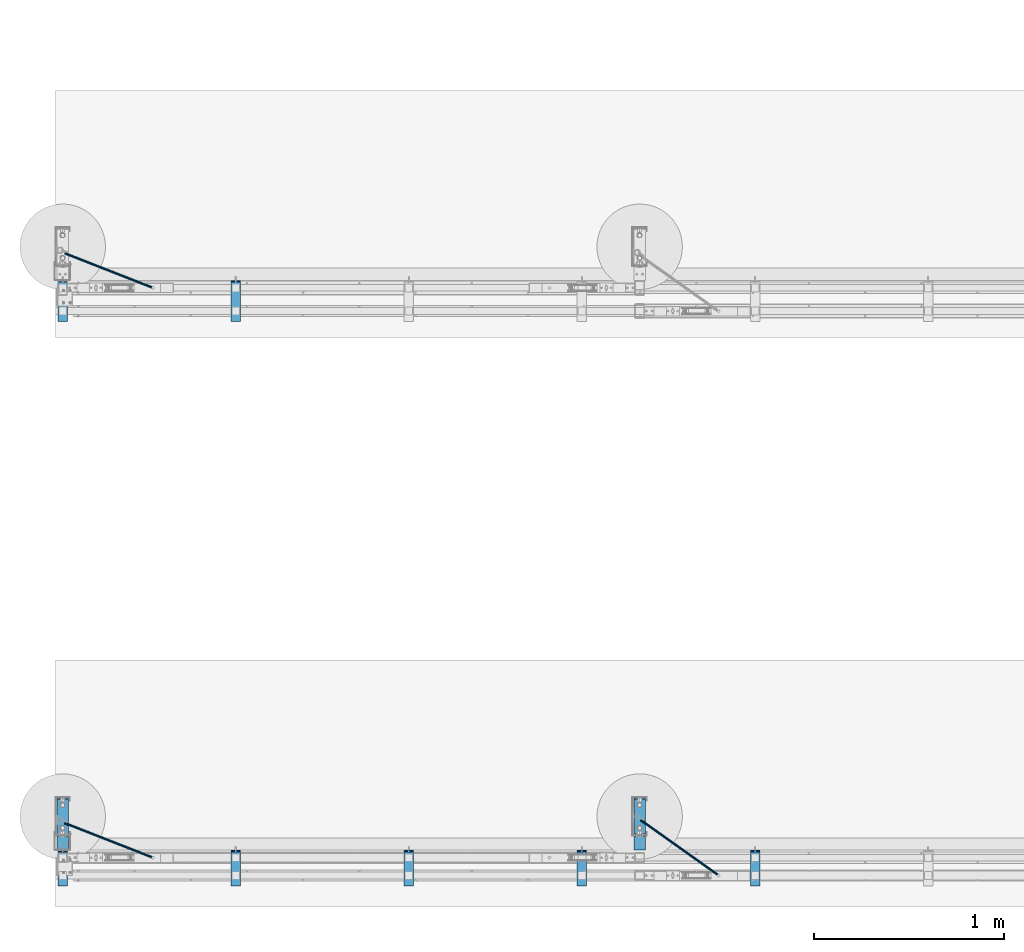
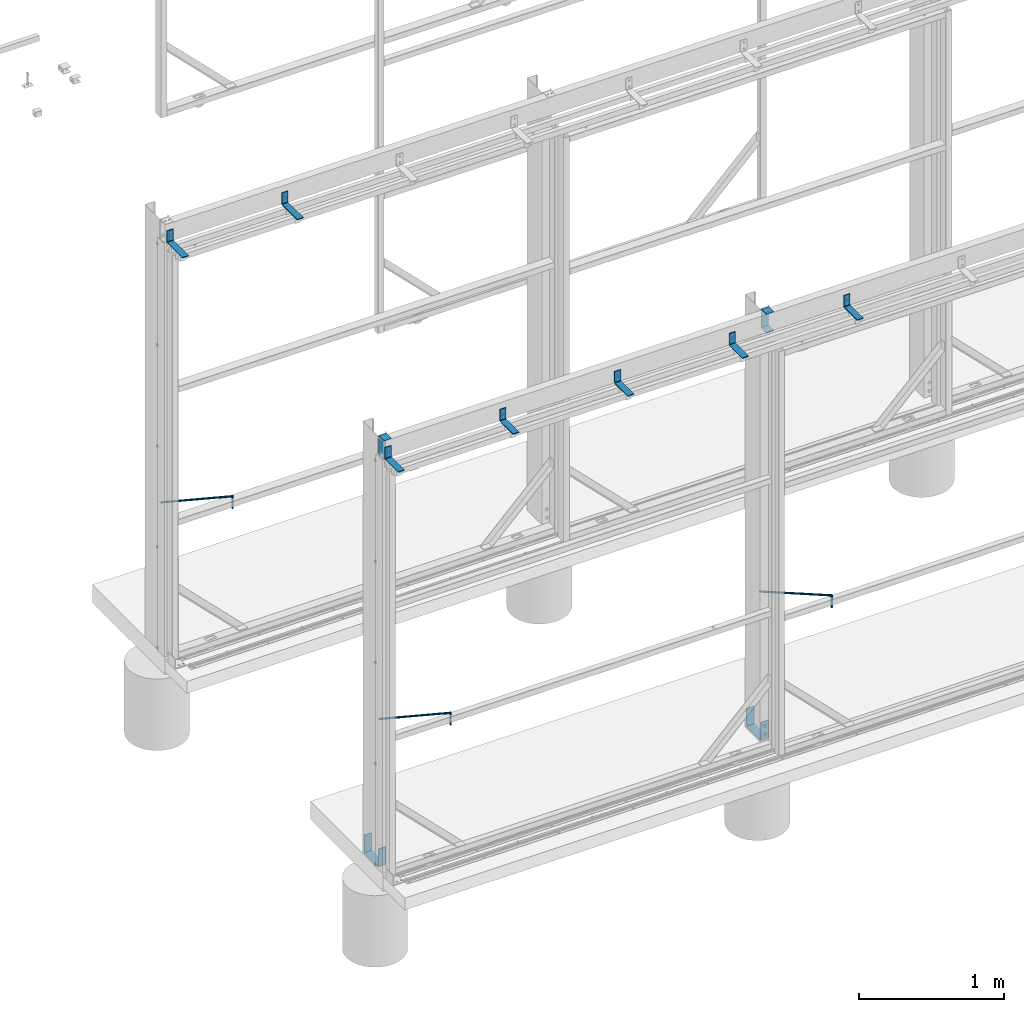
# One storey, part 80 of 91: 14 beams, 14 elements without a shape of their own.
"""IFC2X3 building model written with IfcOpenShell, lengths in millimetres."""

from ifc_helpers import new_model, si_unit, frame, origin_with_axes, place, context, subcontext, project, spatial, faceted_brep, material, type_object, element, aggregate, save


model = new_model("IFC2X3")

# Units and contexts
model_context = context("Model", 3, precision=1e-05, world=origin_with_axes())
body_context = subcontext(model_context, "Body", "Model", "MODEL_VIEW")
ifc_project = project(units=[si_unit("LENGTHUNIT", "METRE", prefix="MILLI"), si_unit("AREAUNIT", "SQUARE_METRE"), si_unit("VOLUMEUNIT", "CUBIC_METRE"), si_unit("MASSUNIT", "GRAM", prefix="KILO"), si_unit("TIMEUNIT", "SECOND"), si_unit("PLANEANGLEUNIT", "RADIAN"), si_unit("SOLIDANGLEUNIT", "STERADIAN"), si_unit("THERMODYNAMICTEMPERATUREUNIT", "DEGREE_CELSIUS"), si_unit("LUMINOUSINTENSITYUNIT", "LUMEN")], contexts=[model_context])

# Site, building, storey
site_placement = place(None, origin_with_axes())
site = spatial("IfcSite", under=ifc_project, at=site_placement, Name="Undefined", CompositionType="ELEMENT")
building_placement = place(site_placement, origin_with_axes())
building = spatial("IfcBuilding", under=site, at=building_placement, Name="Undefined", CompositionType="ELEMENT")
storey_placement = place(building_placement, origin_with_axes())
storey = spatial("IfcBuildingStorey", under=building, at=storey_placement, Name="Undefined", CompositionType="ELEMENT", Elevation=0.0)

# Assembly, beam
assembly_1_placement = place(storey_placement, origin_with_axes())
assembly_1 = element("IfcElementAssembly", 1, at=assembly_1_placement, inside=storey, Name="DOOR BRACKET", AssemblyPlace="NOTDEFINED", PredefinedType="RIGID_FRAME")
ifc_material_1 = material(Name="STEEL/250")
beam_type_1 = type_object("IfcBeamType", Name="FL6*50", PredefinedType="NOTDEFINED")
beam_1_placement = place(assembly_1_placement, frame((-115884.59, 87749.15, 3544.0), z_axis=(1.0, 0.0, 0.0), x_axis=(0.0, 0.0, -1.0)))
beam_1 = element("IfcBeam", 2, at=beam_1_placement, type_object=beam_type_1, material=ifc_material_1, Name="DOOR BRACKET", ObjectType="FL6*50", context=body_context, shape_type="Brep", body=[
    faceted_brep([(0.0, 3.0, -25.0), (0.0, 3.0, 25.0), (88.0, 3.0, 25.0), (88.0000000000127, 3.00000000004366, -25.0), (0.0, -3.0, 25.0), (0.0, -3.0, -25.0), (88.0, -3.0, -25.0), (88.0, -3.0, 25.0), (93.9999999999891, 1.39230484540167, 25.0), (93.9999999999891, 1.39230484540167, -25.0), (90.9999999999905, -3.8038475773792, -25.0), (90.9999999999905, -3.8038475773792, 25.0), (93.1961524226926, -6.00000000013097, -25.0), (93.1961524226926, -6.00000000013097, 25.0), (98.3923048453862, -3.00000000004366, 25.0), (98.3923048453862, -3.00000000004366, -25.0), (93.9999999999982, -9.00000000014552, -25.0), (93.9999999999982, -9.00000000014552, 25.0), (100.000000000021, -9.00000000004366, 25.0), (100.0, -9.0, -25.0), (100.0, -215.0, 25.0), (100.0, -215.0, -25.0), (94.0, -215.0, 25.0), (94.0, -215.0, -25.0)], [[[0, 1, 2, 3]], [[4, 5, 6, 7]], [[5, 4, 1, 0]], [[3, 2, 8, 9]], [[7, 6, 10, 11]], [[10, 12, 13, 11]], [[8, 14, 15, 9]], [[12, 16, 17, 13]], [[14, 18, 19, 15]], [[19, 18, 20, 21]], [[18, 14, 8, 2, 1, 4, 7, 11, 13, 17, 22, 20]], [[17, 16, 23, 22]], [[16, 12, 10, 6, 5, 0, 3, 9, 15, 19, 21, 23]], [[22, 23, 21, 20]]]),
])
aggregate(assembly_1, [beam_1])

assembly_2_placement = place(storey_placement, origin_with_axes())
assembly_2 = element("IfcElementAssembly", 3, at=assembly_2_placement, inside=storey, Name="DOOR BRACKET", AssemblyPlace="NOTDEFINED", PredefinedType="RIGID_FRAME")
beam_2_placement = place(assembly_2_placement, frame((-116795.84, 87749.15, 3544.0), z_axis=(1.0, 0.0, 0.0), x_axis=(0.0, 0.0, -1.0)))
beam_2 = element("IfcBeam", 4, at=beam_2_placement, type_object=beam_type_1, material=ifc_material_1, Name="DOOR BRACKET", ObjectType="FL6*50", context=body_context, shape_type="Brep", body=[
    faceted_brep([(0.0, 3.0, -25.0), (0.0, 3.0, 25.0), (88.0, 3.0, 25.0), (88.0000000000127, 3.00000000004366, -25.0), (0.0, -3.0, 25.0), (0.0, -3.0, -25.0), (88.0, -3.0, -25.0), (88.0, -3.0, 25.0), (93.9999999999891, 1.39230484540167, 25.0), (93.9999999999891, 1.39230484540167, -25.0), (90.9999999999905, -3.8038475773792, -25.0), (90.9999999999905, -3.8038475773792, 25.0), (93.1961524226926, -6.00000000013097, -25.0), (93.1961524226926, -6.00000000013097, 25.0), (98.3923048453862, -3.00000000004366, 25.0), (98.3923048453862, -3.00000000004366, -25.0), (93.9999999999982, -9.00000000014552, -25.0), (93.9999999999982, -9.00000000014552, 25.0), (100.000000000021, -9.00000000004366, 25.0), (100.0, -9.0, -25.0), (100.0, -215.0, 25.0), (100.0, -215.0, -25.0), (94.0, -215.0, 25.0), (94.0, -215.0, -25.0)], [[[0, 1, 2, 3]], [[4, 5, 6, 7]], [[5, 4, 1, 0]], [[3, 2, 8, 9]], [[7, 6, 10, 11]], [[10, 12, 13, 11]], [[8, 14, 15, 9]], [[12, 16, 17, 13]], [[14, 18, 19, 15]], [[19, 18, 20, 21]], [[18, 14, 8, 2, 1, 4, 7, 11, 13, 17, 22, 20]], [[17, 16, 23, 22]], [[16, 12, 10, 6, 5, 0, 3, 9, 15, 19, 21, 23]], [[22, 23, 21, 20]]]),
])
aggregate(assembly_2, [beam_2])

assembly_3_placement = place(storey_placement, origin_with_axes())
assembly_3 = element("IfcElementAssembly", 5, at=assembly_3_placement, inside=storey, Name="DOOR BRACKET", AssemblyPlace="NOTDEFINED", PredefinedType="RIGID_FRAME")
beam_3_placement = place(assembly_3_placement, frame((-113150.84, 84749.15, 3544.0), z_axis=(1.0, 0.0, 0.0), x_axis=(0.0, 0.0, -1.0)))
beam_3 = element("IfcBeam", 6, at=beam_3_placement, type_object=beam_type_1, material=ifc_material_1, Name="DOOR BRACKET", ObjectType="FL6*50", context=body_context, shape_type="Brep", body=[
    faceted_brep([(0.0, 3.0, -25.0), (0.0, 3.0, 25.0), (88.0, 3.0, 25.0), (88.0000000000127, 3.00000000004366, -25.0), (0.0, -3.0, 25.0), (0.0, -3.0, -25.0), (88.0, -3.0, -25.0), (88.0, -3.0, 25.0), (93.9999999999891, 1.39230484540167, 25.0), (93.9999999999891, 1.39230484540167, -25.0), (90.9999999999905, -3.8038475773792, -25.0), (90.9999999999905, -3.8038475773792, 25.0), (93.1961524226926, -6.00000000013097, -25.0), (93.1961524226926, -6.00000000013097, 25.0), (98.3923048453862, -3.00000000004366, 25.0), (98.3923048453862, -3.00000000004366, -25.0), (93.9999999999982, -9.00000000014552, -25.0), (93.9999999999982, -9.00000000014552, 25.0), (100.000000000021, -9.00000000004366, 25.0), (100.0, -9.0, -25.0), (100.0, -185.0, 25.0), (100.0, -185.0, -25.0), (94.0, -185.0, 25.0), (94.0, -185.0, -25.0)], [[[0, 1, 2, 3]], [[4, 5, 6, 7]], [[5, 4, 1, 0]], [[3, 2, 8, 9]], [[7, 6, 10, 11]], [[10, 12, 13, 11]], [[8, 14, 15, 9]], [[12, 16, 17, 13]], [[14, 18, 19, 15]], [[19, 18, 20, 21]], [[18, 14, 8, 2, 1, 4, 7, 11, 13, 17, 22, 20]], [[17, 16, 23, 22]], [[16, 12, 10, 6, 5, 0, 3, 9, 15, 19, 21, 23]], [[22, 23, 21, 20]]]),
])
aggregate(assembly_3, [beam_3])

assembly_4_placement = place(storey_placement, origin_with_axes())
assembly_4 = element("IfcElementAssembly", 7, at=assembly_4_placement, inside=storey, Name="DOOR BRACKET", AssemblyPlace="NOTDEFINED", PredefinedType="RIGID_FRAME")
beam_4_placement = place(assembly_4_placement, frame((-114062.09, 84749.15, 3544.0), z_axis=(1.0, 0.0, 0.0), x_axis=(0.0, 0.0, -1.0)))
beam_4 = element("IfcBeam", 8, at=beam_4_placement, type_object=beam_type_1, material=ifc_material_1, Name="DOOR BRACKET", ObjectType="FL6*50", context=body_context, shape_type="Brep", body=[
    faceted_brep([(0.0, 3.0, -25.0), (0.0, 3.0, 25.0), (88.0, 3.0, 25.0), (88.0000000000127, 3.00000000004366, -25.0), (0.0, -3.0, 25.0), (0.0, -3.0, -25.0), (88.0, -3.0, -25.0), (88.0, -3.0, 25.0), (93.9999999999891, 1.39230484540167, 25.0), (93.9999999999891, 1.39230484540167, -25.0), (90.9999999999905, -3.8038475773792, -25.0), (90.9999999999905, -3.8038475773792, 25.0), (93.1961524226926, -6.00000000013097, -25.0), (93.1961524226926, -6.00000000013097, 25.0), (98.3923048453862, -3.00000000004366, 25.0), (98.3923048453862, -3.00000000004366, -25.0), (93.9999999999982, -9.00000000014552, -25.0), (93.9999999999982, -9.00000000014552, 25.0), (100.000000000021, -9.00000000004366, 25.0), (100.0, -9.0, -25.0), (100.0, -185.0, 25.0), (100.0, -185.0, -25.0), (94.0, -185.0, 25.0), (94.0, -185.0, -25.0)], [[[0, 1, 2, 3]], [[4, 5, 6, 7]], [[5, 4, 1, 0]], [[3, 2, 8, 9]], [[7, 6, 10, 11]], [[10, 12, 13, 11]], [[8, 14, 15, 9]], [[12, 16, 17, 13]], [[14, 18, 19, 15]], [[19, 18, 20, 21]], [[18, 14, 8, 2, 1, 4, 7, 11, 13, 17, 22, 20]], [[17, 16, 23, 22]], [[16, 12, 10, 6, 5, 0, 3, 9, 15, 19, 21, 23]], [[22, 23, 21, 20]]]),
])
aggregate(assembly_4, [beam_4])

assembly_5_placement = place(storey_placement, origin_with_axes())
assembly_5 = element("IfcElementAssembly", 9, at=assembly_5_placement, inside=storey, Name="DOOR BRACKET", AssemblyPlace="NOTDEFINED", PredefinedType="RIGID_FRAME")
beam_5_placement = place(assembly_5_placement, frame((-114973.34, 84749.15, 3544.0), z_axis=(1.0, 0.0, 0.0), x_axis=(0.0, 0.0, -1.0)))
beam_5 = element("IfcBeam", 10, at=beam_5_placement, type_object=beam_type_1, material=ifc_material_1, Name="DOOR BRACKET", ObjectType="FL6*50", context=body_context, shape_type="Brep", body=[
    faceted_brep([(0.0, 3.0, -25.0), (0.0, 3.0, 25.0), (88.0, 3.0, 25.0), (88.0000000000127, 3.00000000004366, -25.0), (0.0, -3.0, 25.0), (0.0, -3.0, -25.0), (88.0, -3.0, -25.0), (88.0, -3.0, 25.0), (93.9999999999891, 1.39230484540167, 25.0), (93.9999999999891, 1.39230484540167, -25.0), (90.9999999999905, -3.8038475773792, -25.0), (90.9999999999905, -3.8038475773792, 25.0), (93.1961524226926, -6.00000000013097, -25.0), (93.1961524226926, -6.00000000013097, 25.0), (98.3923048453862, -3.00000000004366, 25.0), (98.3923048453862, -3.00000000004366, -25.0), (93.9999999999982, -9.00000000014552, -25.0), (93.9999999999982, -9.00000000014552, 25.0), (100.000000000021, -9.00000000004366, 25.0), (100.0, -9.0, -25.0), (100.0, -185.0, 25.0), (100.0, -185.0, -25.0), (94.0, -185.0, 25.0), (94.0, -185.0, -25.0)], [[[0, 1, 2, 3]], [[4, 5, 6, 7]], [[5, 4, 1, 0]], [[3, 2, 8, 9]], [[7, 6, 10, 11]], [[10, 12, 13, 11]], [[8, 14, 15, 9]], [[12, 16, 17, 13]], [[14, 18, 19, 15]], [[19, 18, 20, 21]], [[18, 14, 8, 2, 1, 4, 7, 11, 13, 17, 22, 20]], [[17, 16, 23, 22]], [[16, 12, 10, 6, 5, 0, 3, 9, 15, 19, 21, 23]], [[22, 23, 21, 20]]]),
])
aggregate(assembly_5, [beam_5])

assembly_6_placement = place(storey_placement, origin_with_axes())
assembly_6 = element("IfcElementAssembly", 11, at=assembly_6_placement, inside=storey, Name="DOOR BRACKET", AssemblyPlace="NOTDEFINED", PredefinedType="RIGID_FRAME")
beam_6_placement = place(assembly_6_placement, frame((-115884.59, 84749.15, 3544.0), z_axis=(1.0, 0.0, 0.0), x_axis=(0.0, 0.0, -1.0)))
beam_6 = element("IfcBeam", 12, at=beam_6_placement, type_object=beam_type_1, material=ifc_material_1, Name="DOOR BRACKET", ObjectType="FL6*50", context=body_context, shape_type="Brep", body=[
    faceted_brep([(0.0, 3.0, -25.0), (0.0, 3.0, 25.0), (88.0, 3.0, 25.0), (88.0000000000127, 3.00000000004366, -25.0), (0.0, -3.0, 25.0), (0.0, -3.0, -25.0), (88.0, -3.0, -25.0), (88.0, -3.0, 25.0), (93.9999999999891, 1.39230484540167, 25.0), (93.9999999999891, 1.39230484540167, -25.0), (90.9999999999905, -3.8038475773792, -25.0), (90.9999999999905, -3.8038475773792, 25.0), (93.1961524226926, -6.00000000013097, -25.0), (93.1961524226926, -6.00000000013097, 25.0), (98.3923048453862, -3.00000000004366, 25.0), (98.3923048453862, -3.00000000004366, -25.0), (93.9999999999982, -9.00000000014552, -25.0), (93.9999999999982, -9.00000000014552, 25.0), (100.000000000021, -9.00000000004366, 25.0), (100.0, -9.0, -25.0), (100.0, -185.0, 25.0), (100.0, -185.0, -25.0), (94.0, -185.0, 25.0), (94.0, -185.0, -25.0)], [[[0, 1, 2, 3]], [[4, 5, 6, 7]], [[5, 4, 1, 0]], [[3, 2, 8, 9]], [[7, 6, 10, 11]], [[10, 12, 13, 11]], [[8, 14, 15, 9]], [[12, 16, 17, 13]], [[14, 18, 19, 15]], [[19, 18, 20, 21]], [[18, 14, 8, 2, 1, 4, 7, 11, 13, 17, 22, 20]], [[17, 16, 23, 22]], [[16, 12, 10, 6, 5, 0, 3, 9, 15, 19, 21, 23]], [[22, 23, 21, 20]]]),
])
aggregate(assembly_6, [beam_6])

assembly_7_placement = place(storey_placement, origin_with_axes())
assembly_7 = element("IfcElementAssembly", 13, at=assembly_7_placement, inside=storey, Name="DOOR BRACKET", AssemblyPlace="NOTDEFINED", PredefinedType="RIGID_FRAME")
beam_7_placement = place(assembly_7_placement, frame((-116795.84, 84749.15, 3544.0), z_axis=(1.0, 0.0, 0.0), x_axis=(0.0, 0.0, -1.0)))
beam_7 = element("IfcBeam", 14, at=beam_7_placement, type_object=beam_type_1, material=ifc_material_1, Name="DOOR BRACKET", ObjectType="FL6*50", context=body_context, shape_type="Brep", body=[
    faceted_brep([(0.0, 3.0, -25.0), (0.0, 3.0, 25.0), (88.0, 3.0, 25.0), (88.0000000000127, 3.00000000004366, -25.0), (0.0, -3.0, 25.0), (0.0, -3.0, -25.0), (88.0, -3.0, -25.0), (88.0, -3.0, 25.0), (93.9999999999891, 1.39230484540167, 25.0), (93.9999999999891, 1.39230484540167, -25.0), (90.9999999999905, -3.8038475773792, -25.0), (90.9999999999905, -3.8038475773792, 25.0), (93.1961524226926, -6.00000000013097, -25.0), (93.1961524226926, -6.00000000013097, 25.0), (98.3923048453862, -3.00000000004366, 25.0), (98.3923048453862, -3.00000000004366, -25.0), (93.9999999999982, -9.00000000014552, -25.0), (93.9999999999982, -9.00000000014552, 25.0), (100.000000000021, -9.00000000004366, 25.0), (100.0, -9.0, -25.0), (100.0, -185.0, 25.0), (100.0, -185.0, -25.0), (94.0, -185.0, 25.0), (94.0, -185.0, -25.0)], [[[0, 1, 2, 3]], [[4, 5, 6, 7]], [[5, 4, 1, 0]], [[3, 2, 8, 9]], [[7, 6, 10, 11]], [[10, 12, 13, 11]], [[8, 14, 15, 9]], [[12, 16, 17, 13]], [[14, 18, 19, 15]], [[19, 18, 20, 21]], [[18, 14, 8, 2, 1, 4, 7, 11, 13, 17, 22, 20]], [[17, 16, 23, 22]], [[16, 12, 10, 6, 5, 0, 3, 9, 15, 19, 21, 23]], [[22, 23, 21, 20]]]),
])
aggregate(assembly_7, [beam_7])

assembly_8_placement = place(storey_placement, origin_with_axes())
assembly_8 = element("IfcElementAssembly", 15, at=assembly_8_placement, inside=storey, Name="ROD", AssemblyPlace="NOTDEFINED", PredefinedType="RIGID_FRAME")
beam_type_2 = type_object("IfcBeamType", Name="D12", PredefinedType="NOTDEFINED")
beam_8_placement = place(assembly_8_placement, frame((-116320.062628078, 87712.1870489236, 1062.33560984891), z_axis=(0.931124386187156, -0.364701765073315, 0.0), x_axis=(0.0, 0.0, 1.0)))
beam_8 = element("IfcBeam", 16, at=beam_8_placement, type_object=beam_type_2, material=ifc_material_1, Name="ROD", ObjectType="D12", context=body_context, shape_type="Brep", body=[
    faceted_brep([(0.0, -6.0, 0.0), (-1.13686837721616e-12, -4.24264068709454, -4.24264068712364), (93.5000000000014, -4.24264068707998, -4.2426406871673), (93.5000000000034, -5.99999999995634, -2.91038304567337e-11), (-2.72848410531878e-12, 1.45519152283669e-11, -5.99999999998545), (93.5, 2.91038304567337e-11, -6.00000000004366), (-2.50111042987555e-12, 4.24264068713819, -4.24264068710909), (93.5000000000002, 4.2426406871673, -4.24264068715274), (0.0, 6.00000000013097, 0.0), (93.5000000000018, 6.0000000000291, -4.36557456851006e-11), (1.13686837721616e-12, 4.24264068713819, 4.24264068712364), (93.5000000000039, 4.24264068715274, 4.24264068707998), (2.72848410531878e-12, 1.45519152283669e-11, 5.99999999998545), (93.5000000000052, 4.36557456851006e-11, 5.99999999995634), (2.50111042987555e-12, -4.24264068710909, 4.24264068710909), (93.500000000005, -4.24264068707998, 4.24264068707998), (95.7573593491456, -4.24264068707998, -4.2426406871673), (100.000000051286, -5.9999999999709, -4.36557456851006e-11), (94.0, 2.91038304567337e-11, -6.00000000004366), (95.7573592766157, 4.2426406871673, -4.24264068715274), (99.9999999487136, 6.0000000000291, -4.36557456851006e-11), (104.242640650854, 4.24264068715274, 4.24264068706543), (106.0, 4.36557456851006e-11, 5.99999999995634), (104.242640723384, -4.24264068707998, 4.24264068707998), (95.7573593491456, -4.24264066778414, -6.50000003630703), (100.000000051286, -5.99999994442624, -6.50000005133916), (94.0, 4.32191882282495e-09, -6.50000000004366), (95.7573592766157, 4.24264070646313, -6.49999996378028), (99.9999999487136, 6.00000005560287, -6.49999994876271), (104.242640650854, 4.24264077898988, -6.49999996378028), (106.0, 1.06883817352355e-07, -6.50000000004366), (104.242640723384, -4.2426405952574, -6.50000003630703), (95.7573593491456, -4.24263644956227, -499.999970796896), (100.000000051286, -5.99999572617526, -499.999970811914), (94.0, 4.22252924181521e-06, -499.999970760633), (95.7573592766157, 4.24264492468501, -499.99997072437), (99.9999999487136, 6.00000427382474, -499.999970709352), (104.242640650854, 4.24264499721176, -499.999970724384), (106.0, 4.32510569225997e-06, -499.999970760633), (104.242640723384, -4.24263637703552, -499.999970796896)], [[[0, 1, 2, 3]], [[1, 4, 5, 2]], [[4, 6, 7, 5]], [[6, 8, 9, 7]], [[8, 10, 11, 9]], [[10, 12, 13, 11]], [[12, 14, 15, 13]], [[14, 0, 3, 15]], [[14, 12, 10, 8, 6, 4, 1, 0]], [[3, 2, 16, 17]], [[2, 5, 18, 16]], [[5, 7, 19, 18]], [[7, 9, 20, 19]], [[9, 11, 21, 20]], [[11, 13, 22, 21]], [[13, 15, 23, 22]], [[15, 3, 17, 23]], [[17, 16, 24, 25]], [[16, 18, 26, 24]], [[18, 19, 27, 26]], [[19, 20, 28, 27]], [[20, 21, 29, 28]], [[21, 22, 30, 29]], [[22, 23, 31, 30]], [[23, 17, 25, 31]], [[25, 24, 32, 33]], [[24, 26, 34, 32]], [[26, 27, 35, 34]], [[27, 28, 36, 35]], [[28, 29, 37, 36]], [[29, 30, 38, 37]], [[30, 31, 39, 38]], [[31, 25, 33, 39]], [[34, 35, 36, 37, 38, 39, 33, 32]]]),
])
aggregate(assembly_8, [beam_8])

assembly_9_placement = place(storey_placement, origin_with_axes())
assembly_9 = element("IfcElementAssembly", 17, at=assembly_9_placement, inside=storey, Name="ROD", AssemblyPlace="NOTDEFINED", PredefinedType="RIGID_FRAME")
beam_9_placement = place(assembly_9_placement, frame((-113344.657713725, 84620.399062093, 1062.33560984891), z_axis=(0.815236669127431, -0.57912794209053, 0.0), x_axis=(0.0, 0.0, 1.0)))
beam_9 = element("IfcBeam", 18, at=beam_9_placement, type_object=beam_type_2, material=ifc_material_1, Name="ROD", ObjectType="D12", context=body_context, shape_type="Brep", body=[
    faceted_brep([(0.0, -6.0, 0.0), (-1.13686837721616e-12, -4.24264068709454, -4.24264068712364), (93.5000000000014, -4.24264068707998, -4.2426406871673), (93.5000000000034, -5.99999999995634, -2.91038304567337e-11), (-2.72848410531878e-12, 1.45519152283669e-11, -5.99999999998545), (93.5, 2.91038304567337e-11, -6.00000000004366), (-2.50111042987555e-12, 4.24264068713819, -4.24264068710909), (93.5000000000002, 4.2426406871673, -4.24264068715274), (0.0, 6.00000000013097, 0.0), (93.5000000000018, 6.0000000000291, -4.36557456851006e-11), (1.13686837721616e-12, 4.24264068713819, 4.24264068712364), (93.5000000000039, 4.24264068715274, 4.24264068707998), (2.72848410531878e-12, 1.45519152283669e-11, 5.99999999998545), (93.5000000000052, 4.36557456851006e-11, 5.99999999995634), (2.50111042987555e-12, -4.24264068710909, 4.24264068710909), (93.500000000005, -4.24264068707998, 4.24264068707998), (95.7573593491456, -4.24264068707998, -4.2426406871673), (100.000000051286, -5.9999999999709, -4.36557456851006e-11), (94.0, 2.91038304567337e-11, -6.00000000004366), (95.7573592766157, 4.2426406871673, -4.24264068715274), (99.9999999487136, 6.0000000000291, -4.36557456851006e-11), (104.242640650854, 4.24264068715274, 4.24264068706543), (106.0, 4.36557456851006e-11, 5.99999999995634), (104.242640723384, -4.24264068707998, 4.24264068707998), (95.7573593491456, -4.24264066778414, -6.50000003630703), (100.000000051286, -5.99999994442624, -6.50000005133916), (94.0, 4.32191882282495e-09, -6.50000000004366), (95.7573592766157, 4.24264070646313, -6.49999996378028), (99.9999999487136, 6.00000005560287, -6.49999994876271), (104.242640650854, 4.24264077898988, -6.49999996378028), (106.0, 1.06883817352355e-07, -6.50000000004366), (104.242640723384, -4.2426405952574, -6.50000003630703), (95.757358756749, -4.24270567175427, -499.999949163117), (99.999999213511, -6.00006554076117, -499.999948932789), (94.0, -6.47542592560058e-05, -499.999949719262), (95.7573598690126, 4.24257570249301, -499.999950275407), (100.000000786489, 5.99993445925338, -499.999950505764), (104.242641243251, 4.24257459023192, -499.999950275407), (106.0, -6.63272485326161e-05, -499.999949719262), (104.242640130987, -4.24270678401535, -499.999949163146)], [[[0, 1, 2, 3]], [[1, 4, 5, 2]], [[4, 6, 7, 5]], [[6, 8, 9, 7]], [[8, 10, 11, 9]], [[10, 12, 13, 11]], [[12, 14, 15, 13]], [[14, 0, 3, 15]], [[14, 12, 10, 8, 6, 4, 1, 0]], [[3, 2, 16, 17]], [[2, 5, 18, 16]], [[5, 7, 19, 18]], [[7, 9, 20, 19]], [[9, 11, 21, 20]], [[11, 13, 22, 21]], [[13, 15, 23, 22]], [[15, 3, 17, 23]], [[17, 16, 24, 25]], [[16, 18, 26, 24]], [[18, 19, 27, 26]], [[19, 20, 28, 27]], [[20, 21, 29, 28]], [[21, 22, 30, 29]], [[22, 23, 31, 30]], [[23, 17, 25, 31]], [[25, 24, 32, 33]], [[24, 26, 34, 32]], [[26, 27, 35, 34]], [[27, 28, 36, 35]], [[28, 29, 37, 36]], [[29, 30, 38, 37]], [[30, 31, 39, 38]], [[31, 25, 33, 39]], [[34, 35, 36, 37, 38, 39, 33, 32]]]),
])
aggregate(assembly_9, [beam_9])

assembly_10_placement = place(storey_placement, origin_with_axes())
assembly_10 = element("IfcElementAssembly", 19, at=assembly_10_placement, inside=storey, Name="ROD", AssemblyPlace="NOTDEFINED", PredefinedType="RIGID_FRAME")
beam_10_placement = place(assembly_10_placement, frame((-116320.062628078, 84712.1870489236, 1062.33560984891), z_axis=(0.931124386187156, -0.364701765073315, 0.0), x_axis=(0.0, 0.0, 1.0)))
beam_10 = element("IfcBeam", 20, at=beam_10_placement, type_object=beam_type_2, material=ifc_material_1, Name="ROD", ObjectType="D12", context=body_context, shape_type="Brep", body=[
    faceted_brep([(0.0, -6.0, 0.0), (-1.13686837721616e-12, -4.24264068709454, -4.24264068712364), (93.5000000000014, -4.24264068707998, -4.2426406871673), (93.5000000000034, -5.99999999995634, -2.91038304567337e-11), (-2.72848410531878e-12, 1.45519152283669e-11, -5.99999999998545), (93.5, 2.91038304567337e-11, -6.00000000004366), (-2.50111042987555e-12, 4.24264068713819, -4.24264068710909), (93.5000000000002, 4.2426406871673, -4.24264068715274), (0.0, 6.00000000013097, 0.0), (93.5000000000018, 6.0000000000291, -4.36557456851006e-11), (1.13686837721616e-12, 4.24264068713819, 4.24264068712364), (93.5000000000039, 4.24264068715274, 4.24264068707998), (2.72848410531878e-12, 1.45519152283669e-11, 5.99999999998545), (93.5000000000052, 4.36557456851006e-11, 5.99999999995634), (2.50111042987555e-12, -4.24264068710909, 4.24264068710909), (93.500000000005, -4.24264068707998, 4.24264068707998), (95.7573593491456, -4.24264068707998, -4.2426406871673), (100.000000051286, -5.9999999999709, -4.36557456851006e-11), (94.0, 2.91038304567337e-11, -6.00000000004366), (95.7573592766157, 4.2426406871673, -4.24264068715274), (99.9999999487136, 6.0000000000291, -4.36557456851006e-11), (104.242640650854, 4.24264068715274, 4.24264068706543), (106.0, 4.36557456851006e-11, 5.99999999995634), (104.242640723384, -4.24264068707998, 4.24264068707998), (95.7573593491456, -4.24264066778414, -6.50000003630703), (100.000000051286, -5.99999994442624, -6.50000005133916), (94.0, 4.32191882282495e-09, -6.50000000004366), (95.7573592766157, 4.24264070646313, -6.49999996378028), (99.9999999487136, 6.00000005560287, -6.49999994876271), (104.242640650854, 4.24264077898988, -6.49999996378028), (106.0, 1.06883817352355e-07, -6.50000000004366), (104.242640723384, -4.2426405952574, -6.50000003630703), (95.7573593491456, -4.24263644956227, -499.999970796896), (100.000000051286, -5.99999572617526, -499.999970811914), (94.0, 4.22252924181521e-06, -499.999970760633), (95.7573592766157, 4.24264492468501, -499.99997072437), (99.9999999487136, 6.00000427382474, -499.999970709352), (104.242640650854, 4.24264499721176, -499.999970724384), (106.0, 4.32510569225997e-06, -499.999970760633), (104.242640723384, -4.24263637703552, -499.999970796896)], [[[0, 1, 2, 3]], [[1, 4, 5, 2]], [[4, 6, 7, 5]], [[6, 8, 9, 7]], [[8, 10, 11, 9]], [[10, 12, 13, 11]], [[12, 14, 15, 13]], [[14, 0, 3, 15]], [[14, 12, 10, 8, 6, 4, 1, 0]], [[3, 2, 16, 17]], [[2, 5, 18, 16]], [[5, 7, 19, 18]], [[7, 9, 20, 19]], [[9, 11, 21, 20]], [[11, 13, 22, 21]], [[13, 15, 23, 22]], [[15, 3, 17, 23]], [[17, 16, 24, 25]], [[16, 18, 26, 24]], [[18, 19, 27, 26]], [[19, 20, 28, 27]], [[20, 21, 29, 28]], [[21, 22, 30, 29]], [[22, 23, 31, 30]], [[23, 17, 25, 31]], [[25, 24, 32, 33]], [[24, 26, 34, 32]], [[26, 27, 35, 34]], [[27, 28, 36, 35]], [[28, 29, 37, 36]], [[29, 30, 38, 37]], [[30, 31, 39, 38]], [[31, 25, 33, 39]], [[34, 35, 36, 37, 38, 39, 33, 32]]]),
])
aggregate(assembly_10, [beam_10])

assembly_11_placement = place(storey_placement, origin_with_axes())
assembly_11 = element("IfcElementAssembly", 21, at=assembly_11_placement, inside=storey, Name="BASEPLATE", AssemblyPlace="NOTDEFINED", PredefinedType="RIGID_FRAME")
ifc_material_2 = material(Name="STEEL/450")
beam_type_3 = type_object("IfcBeamType", Name="PLT6*61", PredefinedType="NOTDEFINED")
beam_11_placement = place(assembly_11_placement, frame((-116795.84, 84831.55, 122.999999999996), z_axis=(1.0, 0.0, 0.0), x_axis=(0.0, 0.0, -1.0)))
beam_11 = element("IfcBeam", 22, at=beam_11_placement, type_object=beam_type_3, material=ifc_material_2, Name="BASEPLATE", ObjectType="PLT6*61", context=body_context, shape_type="Brep", body=[
    faceted_brep([(0.0, 3.0, -30.5), (0.0, 3.0, 30.5), (144.0, 3.0, 30.5), (143.999999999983, 3.00000000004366, -30.5), (0.0, -3.0, 30.5), (0.0, -3.0, -30.5), (144.0, -3.0, -30.5), (144.0, -3.0, 30.5), (146.500000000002, 3.66987298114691, 30.5), (146.500000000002, 3.66987298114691, -30.5), (149.500000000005, -1.52627944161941, -30.5), (149.500000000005, -1.52627944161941, 30.5), (153.526279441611, 2.50000000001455, -30.5), (153.526279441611, 2.50000000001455, 30.5), (148.330127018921, 5.50000000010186, 30.5), (148.330127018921, 5.50000000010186, -30.5), (155.000000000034, 8.00000000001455, -30.5), (155.000000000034, 8.00000000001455, 30.5), (149.000000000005, 8.00000000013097, 30.5), (149.0, 8.0, -30.5), (149.0, 186.200012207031, 30.5), (148.999999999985, 186.200012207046, -30.5), (155.0, 186.200012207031, -30.5), (155.0, 186.200012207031, 30.5), (148.330127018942, 188.700012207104, 30.5), (148.330127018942, 188.700012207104, -30.5), (153.526279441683, 191.700012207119, -30.5), (153.526279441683, 191.700012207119, 30.5), (149.500000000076, 195.726291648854, -30.5), (149.500000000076, 195.726291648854, 30.5), (146.500000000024, 190.530139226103, 30.5), (146.500000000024, 190.530139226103, -30.5), (144.000000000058, 197.200012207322, -30.5), (144.000000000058, 197.200012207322, 30.5), (143.999999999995, 191.20001220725, 30.5), (144.0, 191.200012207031, -30.5), (0.0, 191.200012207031, 30.5), (0.0, 191.200012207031, -30.5), (0.0, 197.200012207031, 30.5), (0.0, 197.200012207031, -30.5)], [[[0, 1, 2, 3]], [[4, 5, 6, 7]], [[5, 4, 1, 0]], [[3, 2, 8, 9]], [[7, 6, 10, 11]], [[10, 12, 13, 11]], [[8, 14, 15, 9]], [[12, 16, 17, 13]], [[14, 18, 19, 15]], [[19, 18, 20, 21]], [[17, 16, 22, 23]], [[21, 20, 24, 25]], [[23, 22, 26, 27]], [[26, 28, 29, 27]], [[24, 30, 31, 25]], [[28, 32, 33, 29]], [[30, 34, 35, 31]], [[35, 34, 36, 37]], [[34, 30, 24, 20, 18, 14, 8, 2, 1, 4, 7, 11, 13, 17, 23, 27, 29, 33, 38, 36]], [[33, 32, 39, 38]], [[32, 28, 26, 22, 16, 12, 10, 6, 5, 0, 3, 9, 15, 19, 21, 25, 31, 35, 37, 39]], [[38, 39, 37, 36]]]),
])
aggregate(assembly_11, [beam_11])

assembly_12_placement = place(storey_placement, origin_with_axes())
assembly_12 = element("IfcElementAssembly", 23, at=assembly_12_placement, inside=storey, Name="BASEPLATE", AssemblyPlace="NOTDEFINED", PredefinedType="RIGID_FRAME")
beam_12_placement = place(assembly_12_placement, frame((-113758.34, 84831.55, 122.999999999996), z_axis=(1.0, 0.0, 0.0), x_axis=(0.0, 0.0, -1.0)))
beam_12 = element("IfcBeam", 24, at=beam_12_placement, type_object=beam_type_3, material=ifc_material_2, Name="BASEPLATE", ObjectType="PLT6*61", context=body_context, shape_type="Brep", body=[
    faceted_brep([(0.0, 3.0, -30.5), (0.0, 3.0, 30.5), (144.0, 3.0, 30.5), (143.999999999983, 3.00000000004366, -30.5), (0.0, -3.0, 30.5), (0.0, -3.0, -30.5), (144.0, -3.0, -30.5), (144.0, -3.0, 30.5), (146.500000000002, 3.66987298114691, 30.5), (146.500000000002, 3.66987298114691, -30.5), (149.500000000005, -1.52627944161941, -30.5), (149.500000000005, -1.52627944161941, 30.5), (153.526279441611, 2.50000000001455, -30.5), (153.526279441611, 2.50000000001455, 30.5), (148.330127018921, 5.50000000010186, 30.5), (148.330127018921, 5.50000000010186, -30.5), (155.000000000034, 8.00000000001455, -30.5), (155.000000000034, 8.00000000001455, 30.5), (149.000000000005, 8.00000000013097, 30.5), (149.0, 8.0, -30.5), (149.0, 186.200012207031, 30.5), (148.999999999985, 186.200012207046, -30.5), (155.0, 186.200012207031, -30.5), (155.0, 186.200012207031, 30.5), (148.330127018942, 188.700012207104, 30.5), (148.330127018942, 188.700012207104, -30.5), (153.526279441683, 191.700012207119, -30.5), (153.526279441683, 191.700012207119, 30.5), (149.500000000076, 195.726291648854, -30.5), (149.500000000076, 195.726291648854, 30.5), (146.500000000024, 190.530139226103, 30.5), (146.500000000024, 190.530139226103, -30.5), (144.000000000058, 197.200012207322, -30.5), (144.000000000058, 197.200012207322, 30.5), (143.999999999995, 191.20001220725, 30.5), (144.0, 191.200012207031, -30.5), (0.0, 191.200012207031, 30.5), (0.0, 191.200012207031, -30.5), (0.0, 197.200012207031, 30.5), (0.0, 197.200012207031, -30.5)], [[[0, 1, 2, 3]], [[4, 5, 6, 7]], [[5, 4, 1, 0]], [[3, 2, 8, 9]], [[7, 6, 10, 11]], [[10, 12, 13, 11]], [[8, 14, 15, 9]], [[12, 16, 17, 13]], [[14, 18, 19, 15]], [[19, 18, 20, 21]], [[17, 16, 22, 23]], [[21, 20, 24, 25]], [[23, 22, 26, 27]], [[26, 28, 29, 27]], [[24, 30, 31, 25]], [[28, 32, 33, 29]], [[30, 34, 35, 31]], [[35, 34, 36, 37]], [[34, 30, 24, 20, 18, 14, 8, 2, 1, 4, 7, 11, 13, 17, 23, 27, 29, 33, 38, 36]], [[33, 32, 39, 38]], [[32, 28, 26, 22, 16, 12, 10, 6, 5, 0, 3, 9, 15, 19, 21, 25, 31, 35, 37, 39]], [[38, 39, 37, 36]]]),
])
aggregate(assembly_12, [beam_12])

assembly_13_placement = place(storey_placement, origin_with_axes())
assembly_13 = element("IfcElementAssembly", 25, at=assembly_13_placement, inside=storey, Name="FASCIA BRACKET", AssemblyPlace="NOTDEFINED", PredefinedType="RIGID_FRAME")
beam_type_4 = type_object("IfcBeamType", Name="PLT1.6*60", PredefinedType="NOTDEFINED")
beam_13_placement = place(assembly_13_placement, frame((-116795.839999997, 84752.1514572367, 3597.81721782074), z_axis=(-1.0, 0.0, 0.0), x_axis=(0.0, 1.0, 0.0)))
beam_13 = element("IfcBeam", 26, at=beam_13_placement, type_object=beam_type_4, material=ifc_material_1, Name="FASCIA BRACKET", ObjectType="PLT1.6*60", context=body_context, shape_type="Brep", body=[
    faceted_brep([(0.0, 0.800000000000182, -30.0), (0.0, 0.800000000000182, 30.0), (70.0, 0.800000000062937, 30.0), (70.0, 0.800000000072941, -30.0), (0.0, -0.800000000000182, 30.0), (0.0, -0.800000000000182, -30.0), (70.0, -0.799999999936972, -30.0), (70.0, -0.799999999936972, 30.0), (71.6999999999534, 1.25551362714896, 30.0), (71.6999999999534, 1.25551362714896, -30.0), (72.4999999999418, -0.130127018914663, -30.0), (72.4999999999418, -0.130127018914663, 30.0), (74.3301270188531, 1.69999999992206, -30.0), (74.3301270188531, 1.69999999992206, 30.0), (72.9444863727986, 2.4999999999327, 30.0), (72.9444863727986, 2.4999999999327, -30.0), (74.9999999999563, 4.19999999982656, -30.0), (74.9999999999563, 4.19999999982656, 30.0), (73.399999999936, 4.1999999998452, 30.0), (73.3999999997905, 4.19999999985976, -30.0), (73.3999999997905, 151.399996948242, 30.0), (73.3999999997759, 151.399996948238, -30.0), (74.9999999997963, 151.399996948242, -30.0), (74.9999999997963, 151.399996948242, 30.0), (72.9444863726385, 153.099996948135, 30.0), (72.9444863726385, 153.099996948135, -30.0), (74.3301270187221, 153.89999694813, -30.0), (74.3301270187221, 153.89999694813, 30.0), (72.499999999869, 155.73012396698, -30.0), (72.499999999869, 155.73012396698, 30.0), (71.699999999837, 154.344483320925, 30.0), (71.699999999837, 154.344483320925, -30.0), (69.9999999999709, 156.399996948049, -30.0), (69.9999999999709, 156.399996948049, 30.0), (69.9999999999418, 154.799996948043, 30.0), (70.0, 154.799996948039, -30.0), (4.36557456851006e-10, 154.799996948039, 30.0), (4.36557456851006e-10, 154.799996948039, -30.0), (4.36557456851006e-10, 156.399996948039, 30.0), (4.36557456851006e-10, 156.399996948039, -30.0)], [[[0, 1, 2, 3]], [[4, 5, 6, 7]], [[5, 4, 1, 0]], [[3, 2, 8, 9]], [[7, 6, 10, 11]], [[10, 12, 13, 11]], [[8, 14, 15, 9]], [[12, 16, 17, 13]], [[14, 18, 19, 15]], [[19, 18, 20, 21]], [[17, 16, 22, 23]], [[21, 20, 24, 25]], [[23, 22, 26, 27]], [[26, 28, 29, 27]], [[24, 30, 31, 25]], [[28, 32, 33, 29]], [[30, 34, 35, 31]], [[35, 34, 36, 37]], [[34, 30, 24, 20, 18, 14, 8, 2, 1, 4, 7, 11, 13, 17, 23, 27, 29, 33, 38, 36]], [[33, 32, 39, 38]], [[32, 28, 26, 22, 16, 12, 10, 6, 5, 0, 3, 9, 15, 19, 21, 25, 31, 35, 37, 39]], [[38, 39, 37, 36]]]),
])
aggregate(assembly_13, [beam_13])

assembly_14_placement = place(storey_placement, origin_with_axes())
assembly_14 = element("IfcElementAssembly", 27, at=assembly_14_placement, inside=storey, Name="FASCIA BRACKET", AssemblyPlace="NOTDEFINED", PredefinedType="RIGID_FRAME")
beam_14_placement = place(assembly_14_placement, frame((-113758.339999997, 84752.1514572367, 3597.8172178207), z_axis=(-1.0, 0.0, 0.0), x_axis=(0.0, 1.0, 0.0)))
beam_14 = element("IfcBeam", 28, at=beam_14_placement, type_object=beam_type_4, material=ifc_material_1, Name="FASCIA BRACKET", ObjectType="PLT1.6*60", context=body_context, shape_type="Brep", body=[
    faceted_brep([(0.0, 0.800000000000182, -30.0), (0.0, 0.800000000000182, 30.0), (70.0, 0.800000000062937, 30.0), (70.0, 0.800000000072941, -30.0), (0.0, -0.800000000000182, 30.0), (0.0, -0.800000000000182, -30.0), (70.0, -0.799999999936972, -30.0), (70.0, -0.799999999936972, 30.0), (71.6999999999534, 1.25551362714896, 30.0), (71.6999999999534, 1.25551362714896, -30.0), (72.4999999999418, -0.130127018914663, -30.0), (72.4999999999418, -0.130127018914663, 30.0), (74.3301270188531, 1.69999999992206, -30.0), (74.3301270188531, 1.69999999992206, 30.0), (72.9444863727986, 2.4999999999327, 30.0), (72.9444863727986, 2.4999999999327, -30.0), (74.9999999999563, 4.19999999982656, -30.0), (74.9999999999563, 4.19999999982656, 30.0), (73.399999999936, 4.1999999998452, 30.0), (73.3999999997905, 4.19999999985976, -30.0), (73.3999999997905, 151.399996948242, 30.0), (73.3999999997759, 151.399996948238, -30.0), (74.9999999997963, 151.399996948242, -30.0), (74.9999999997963, 151.399996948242, 30.0), (72.9444863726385, 153.099996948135, 30.0), (72.9444863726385, 153.099996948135, -30.0), (74.3301270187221, 153.89999694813, -30.0), (74.3301270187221, 153.89999694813, 30.0), (72.499999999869, 155.73012396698, -30.0), (72.499999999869, 155.73012396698, 30.0), (71.699999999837, 154.344483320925, 30.0), (71.699999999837, 154.344483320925, -30.0), (69.9999999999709, 156.399996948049, -30.0), (69.9999999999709, 156.399996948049, 30.0), (69.9999999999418, 154.799996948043, 30.0), (70.0, 154.799996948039, -30.0), (4.36557456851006e-10, 154.799996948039, 30.0), (4.36557456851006e-10, 154.799996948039, -30.0), (4.36557456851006e-10, 156.399996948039, 30.0), (4.36557456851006e-10, 156.399996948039, -30.0)], [[[0, 1, 2, 3]], [[4, 5, 6, 7]], [[5, 4, 1, 0]], [[3, 2, 8, 9]], [[7, 6, 10, 11]], [[10, 12, 13, 11]], [[8, 14, 15, 9]], [[12, 16, 17, 13]], [[14, 18, 19, 15]], [[19, 18, 20, 21]], [[17, 16, 22, 23]], [[21, 20, 24, 25]], [[23, 22, 26, 27]], [[26, 28, 29, 27]], [[24, 30, 31, 25]], [[28, 32, 33, 29]], [[30, 34, 35, 31]], [[35, 34, 36, 37]], [[34, 30, 24, 20, 18, 14, 8, 2, 1, 4, 7, 11, 13, 17, 23, 27, 29, 33, 38, 36]], [[33, 32, 39, 38]], [[32, 28, 26, 22, 16, 12, 10, 6, 5, 0, 3, 9, 15, 19, 21, 25, 31, 35, 37, 39]], [[38, 39, 37, 36]]]),
])
aggregate(assembly_14, [beam_14])

save(model, "model.ifc")
